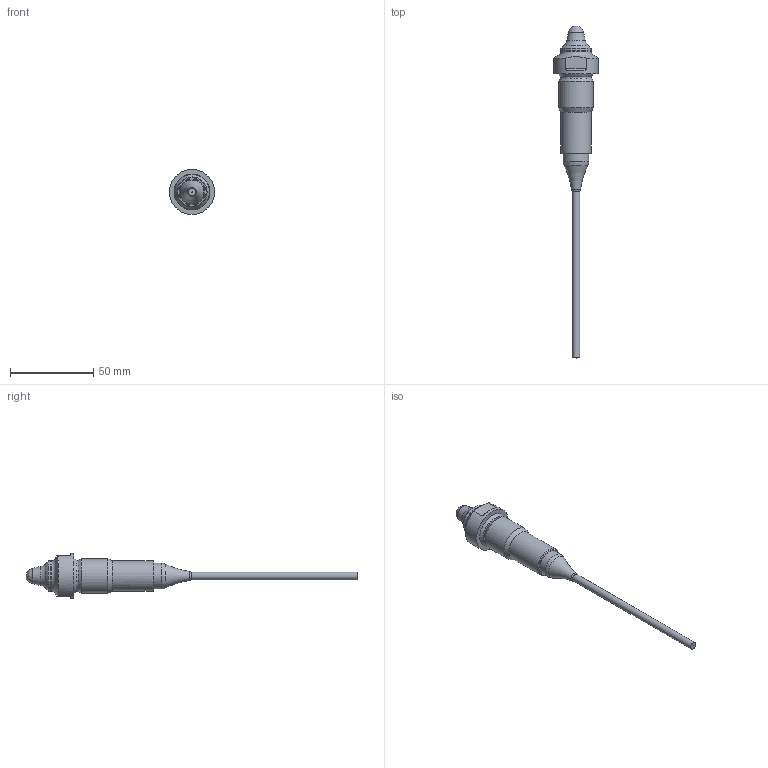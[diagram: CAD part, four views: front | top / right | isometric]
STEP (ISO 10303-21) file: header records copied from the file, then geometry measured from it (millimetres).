
FILE_DESCRIPTION( ( 'Unknown' ), '1' );
FILE_NAME( 'F:/U_Proces/dokumentation new/Mechanical parts/7000 3D Step filer/7000-/7000231/LBFS-X25XX.X.stp', 'Unknown', ( 'Unknown' ), ( 'Unknown' ), 'PSStep 13.0', 'Unknown', ' ' );
FILE_SCHEMA( ( 'AUTOMOTIVE_DESIGN { 1 0 10303 214 1 1 1 1 }' ) );
Length unit declared in the file: millimetre
Products named in the file (1): 2103121
Bounding box: 27 x 199.11 x 27 mm (x, y, z)
Surface area: 11026.5 mm2 (no closed solid volume)
Topology: 0 solids, 65 shells, 65 faces, 247 edges, 206 vertices
Faces by surface type: plane 22, cylinder 20, cone 13, torus 6, bspline 3, sphere 1
Full cylindrical faces by diameter (mm): 0.008 x1, 4.508 x1, 8 x1, 8.3 x1, 10.008 x1, 13 x2, 15 x1, 15.15 x1, 15.45 x1, 15.458 x1, 15.5 x1, 16.5 x1, 18 x3, 21 x1, 27 x1
Entity records: 3081 total; most frequent: CARTESIAN_POINT 819, DIRECTION 410, ORIENTED_EDGE 182, EDGE_CURVE 182, VERTEX_POINT 182, AXIS2_PLACEMENT_3D 181, CIRCLE 118, FACE_BOUND 114
